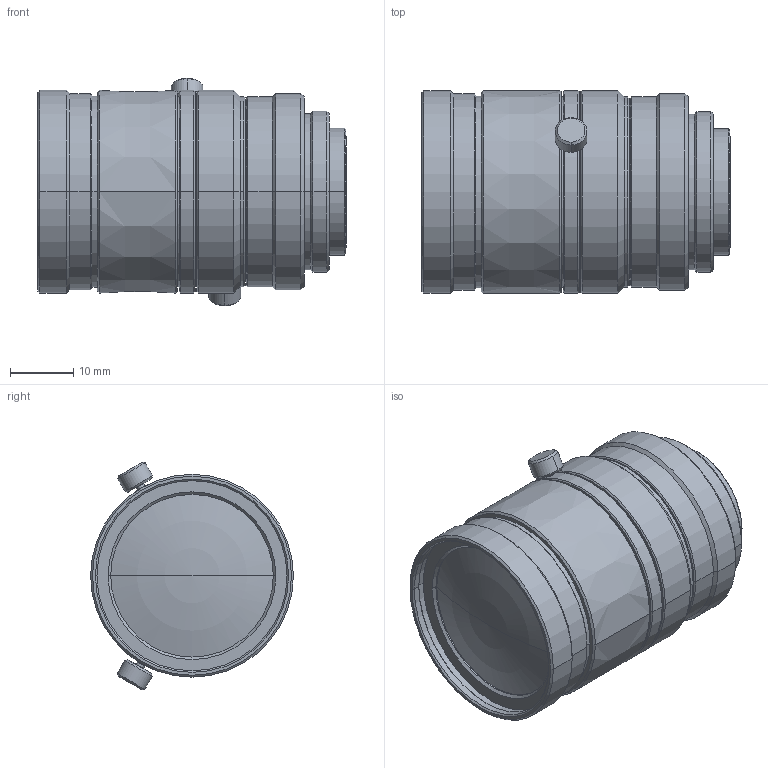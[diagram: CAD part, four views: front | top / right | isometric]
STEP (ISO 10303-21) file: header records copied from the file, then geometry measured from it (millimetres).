
FILE_DESCRIPTION (( 'STEP AP203' ), '1' );
FILE_NAME ('SV-7527V.STEP', '2014-05-14T08:43:52', ( '' ), ( '' ), 'SwSTEP 2.0', 'SolidWorks 2014', '' );
FILE_SCHEMA (( 'CONFIG_CONTROL_DESIGN' ));
Length unit declared in the file: millimetre
Products named in the file (1): SV-7527V
Bounding box: 48.62 x 32 x 35.95 mm (x, y, z)
Volume: 33739 mm3; surface area: 7338.2 mm2
Topology: 1 solids, 1 shells, 132 faces, 266 edges, 152 vertices
Faces by surface type: cone 68, cylinder 40, plane 20, torus 4
Entity records: 3507 total; most frequent: DIRECTION 674, CARTESIAN_POINT 593, ORIENTED_EDGE 524, AXIS2_PLACEMENT_3D 283, EDGE_CURVE 262, EDGE_LOOP 152, VERTEX_POINT 152, CIRCLE 150
